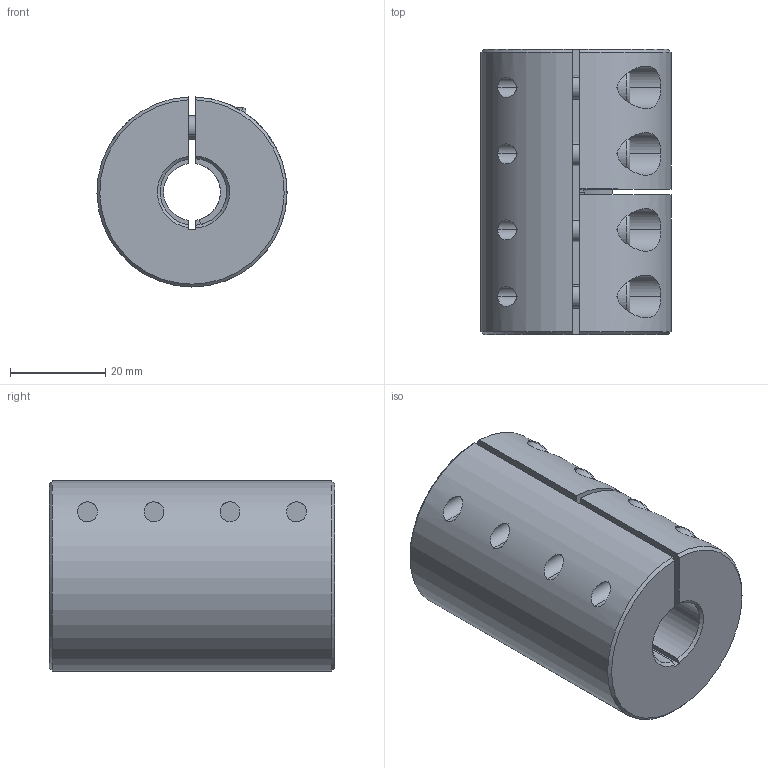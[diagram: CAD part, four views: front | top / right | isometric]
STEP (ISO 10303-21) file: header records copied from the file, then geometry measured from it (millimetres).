
FILE_DESCRIPTION (( 'STEP AP214' ), '1' );
FILE_NAME ('LL-B-D40L60-12-14½¨Ä£.STEP', '2022-07-22T00:58:27', ( '' ), ( '' ), 'SwSTEP 2.0', 'SolidWorks 2022', '' );
FILE_SCHEMA (( 'AUTOMOTIVE_DESIGN' ));
Length unit declared in the file: millimetre
Products named in the file (1): LL-B-D40L60-12-14膘耀
Bounding box: 40 x 60 x 39.99 mm (x, y, z)
Volume: 63969.6 mm3; surface area: 17286.4 mm2
Topology: 1 solids, 1 shells, 182 faces, 463 edges, 291 vertices
Faces by surface type: plane 88, cylinder 71, cone 15, torus 8
Entity records: 6015 total; most frequent: CARTESIAN_POINT 1525, DIRECTION 971, ORIENTED_EDGE 910, EDGE_CURVE 455, AXIS2_PLACEMENT_3D 377, VERTEX_POINT 291, LINE 217, VECTOR 217
